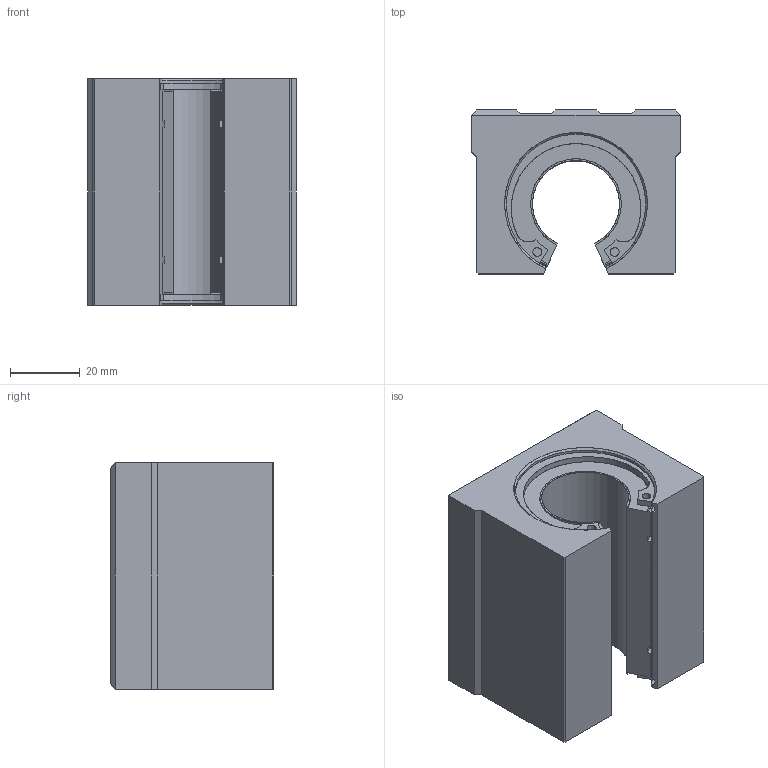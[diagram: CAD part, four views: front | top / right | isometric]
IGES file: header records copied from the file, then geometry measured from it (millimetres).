
Start section: SolidWorks IGES file using analytic representation for surfaces
Global section: file name: D:\SOLIDWORKS PROEKTI\freelance cnc cat\VTORA SERIJA\SBR-UU\SBR25UU.IGS; native system: SolidWorks 2016; preprocessor: SolidWorks 2016; author: User; date: 170806.132453; units: millimetre
Bounding box: 60 x 47 x 65 mm (x, y, z)
Surface area: 39304.4 mm2 (no closed solid volume)
Topology: 0 solids, 0 shells, 327 faces, 8041 edges, 9799 vertices
Faces by surface type: bspline 222, revolution 105
